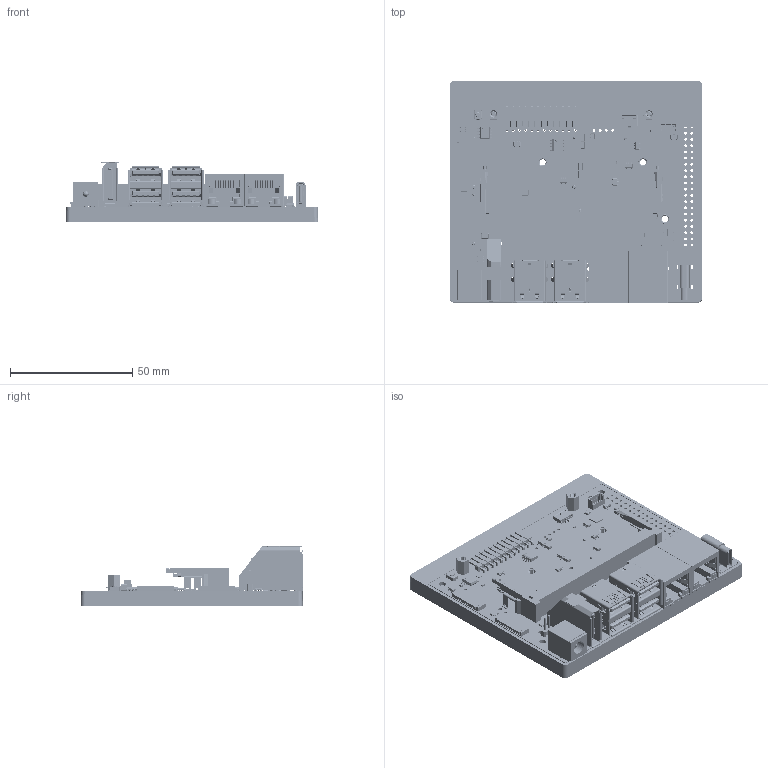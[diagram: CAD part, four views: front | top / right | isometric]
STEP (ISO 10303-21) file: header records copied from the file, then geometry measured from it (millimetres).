
FILE_DESCRIPTION((''),'2;1');
FILE_NAME('JETSON-ORIN-IO-BASE-B_ASM','2025-12-29T14:04:38',('xiaojisheng'),(''),'CREO PARAMETRIC BY PTC INC, 2021063','CREO PARAMETRIC BY PTC INC, 2021063','');
FILE_SCHEMA(('CONFIG_CONTROL_DESIGN','SHAPE_APPEARANCE_LAYERS_GROUPS'));
Products named in the file (170): BOARD; EXTRUDED-33767; 1939484736_ASM; L7_ASM; SOT23-5AND6_00; SOT23-5-14065_AF0; SOT23-5-14113_AF0_ASM_ASM; SOT23-5-2_ASM; U8_ASM; EXTRUDED-91014; 1715246416_ASM; EXTRUDED-91386; 447664016_ASM; U9_ASM; USER_LIBRARY-3225-1_1; USER_LIBRARY-3225-1_2; USER_LIBRARY-3225-1_3; USER_LIBRARY-3225-1_4; USER_LIBRARY-3225-1_5; USER_LIBRARY-3225-1_6; USER_LIBRARY-3225-1_ASM; Y3_ASM; EXTRUDED-104422; _2004806608_ASM; DS1_ASM; USER_LIBRARY-SOIC-8-150_PIN_SOI; USER_LIBRARY-SOIC-8-150_SOIC_15; USER_LIBRARY-SOIC-8-150_ASM; U17_ASM; SOT-23; Q60_ASM; Q36_ASM; Q1_ASM; Q17_ASM; Q18_ASM; Q20_ASM; Q21_ASM; _1_1_2_3_40001; 2_1_2_300; 3_1_2_3_A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
Assembly tree (263 placements, depth 9):
  JETSON-ORIN-IO-BASE-B_ASM
    JETSON-ORIN-IO-BASE-B-PCB-PCBA_ASM
      JETSON-ORIN-IO-BASE-B-PCB_ASM
        PCB_ASM
          BOARD
          L7_ASM
            1939484736_ASM
              EXTRUDED-33767
          U8_ASM
            SOT23-5-2_ASM
              SOT23-5-14113_AF0_ASM_ASM
                SOT23-5AND6_00  x5
                SOT23-5-14065_AF0
          U9_ASM
            1715246416_ASM
              EXTRUDED-91014
            447664016_ASM  x6
              EXTRUDED-91386
          Y3_ASM
            USER_LIBRARY-3225-1_ASM
              USER_LIBRARY-3225-1_1
              USER_LIBRARY-3225-1_2
              USER_LIBRARY-3225-1_3
              USER_LIBRARY-3225-1_4
              USER_LIBRARY-3225-1_5
              USER_LIBRARY-3225-1_6
          DS1_ASM
            _2004806608_ASM
              EXTRUDED-104422
          U17_ASM
            USER_LIBRARY-SOIC-8-150_ASM
              USER_LIBRARY-SOIC-8-150_PIN_SOI  x8
              USER_LIBRARY-SOIC-8-150_SOIC_15
          Q60_ASM
            SOT-23
          Q36_ASM
            SOT-23
          Q1_ASM
            SOT-23
          Q17_ASM
            SOT-23
          Q18_ASM
            SOT-23
          Q20_ASM
            SOT-23
          Q21_ASM
            SOT-23
          C160_ASM
            3D_MODEL_ASM
              C_1206-6326_AF0_ASM_ASM
                C_1206-2941_AF0_ASM_ASM
                  _1_1_2_3_40001
                  2_1_2_300
                  3_1_2_3_A
          C376_ASM
            3D_MODEL_ASM
              C_1206-6326_AF0_ASM_ASM
                C_1206-2941_AF0_ASM_ASM
                  _1_1_2_3_40001
                  2_1_2_300
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Bounding box: 103.28 x 91.01 x 24.9 mm (x, y, z)
Volume: 42191 mm3; surface area: 54043.6 mm2
Topology: 553 solids, 568 shells, 40703 faces, 107055 edges, 69084 vertices
Faces by surface type: plane 26860, cylinder 6445, extrusion 5773, sphere 747, torus 601, bspline 195, cone 82
Entity records: 576967 total; most frequent: CARTESIAN_POINT 100254, ORIENTED_EDGE 69916, DIRECTION 64733, PRESENTATION_STYLE_ASSIGNMENT 36750, EDGE_CURVE 34970, STYLED_ITEM 33127, CURVE_STYLE 30293, VECTOR 28767
